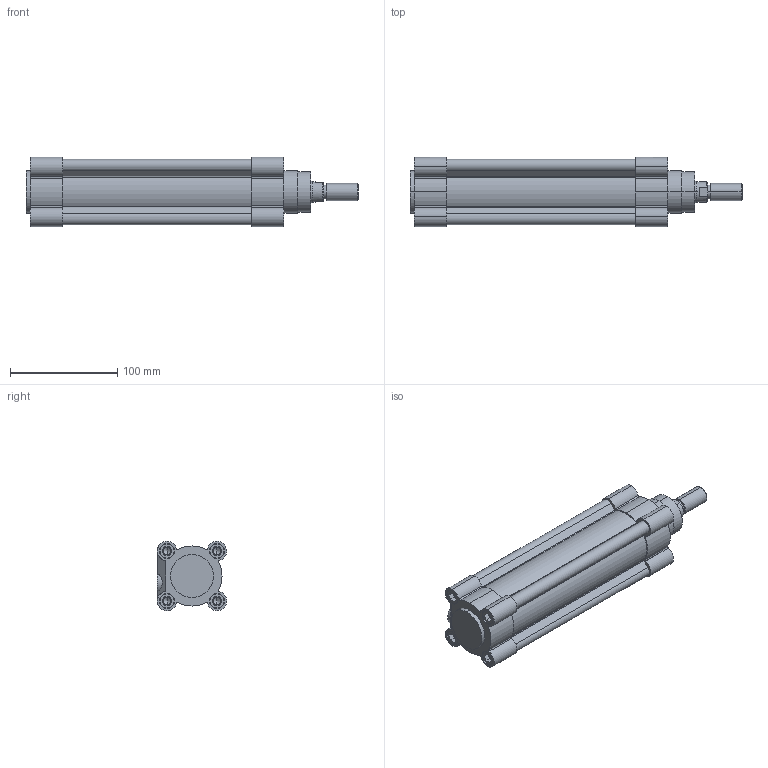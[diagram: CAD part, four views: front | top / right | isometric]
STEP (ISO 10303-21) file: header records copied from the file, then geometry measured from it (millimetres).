
FILE_DESCRIPTION (( 'STEP AP214' ), '1' );
FILE_NAME ('CPME50-130.STEP', '2025-04-30T16:14:39', ( '' ), ( '' ), 'SwSTEP 2.0', 'SolidWorks 2019', '' );
FILE_SCHEMA (( 'AUTOMOTIVE_DESIGN' ));
Length unit declared in the file: millimetre
Products named in the file (1): CPME50-130
Bounding box: 309 x 64.5 x 64.5 mm (x, y, z)
Volume: 544269.6 mm3; surface area: 154885.1 mm2
Topology: 2 solids, 2 shells, 384 faces, 947 edges, 586 vertices
Faces by surface type: plane 179, cylinder 161, cone 44
Entity records: 15514 total; most frequent: DIRECTION 2067, CARTESIAN_POINT 1968, ORIENTED_EDGE 1854, EDGE_CURVE 927, AXIS2_PLACEMENT_3D 765, VERTEX_POINT 586, LINE 537, VECTOR 537
